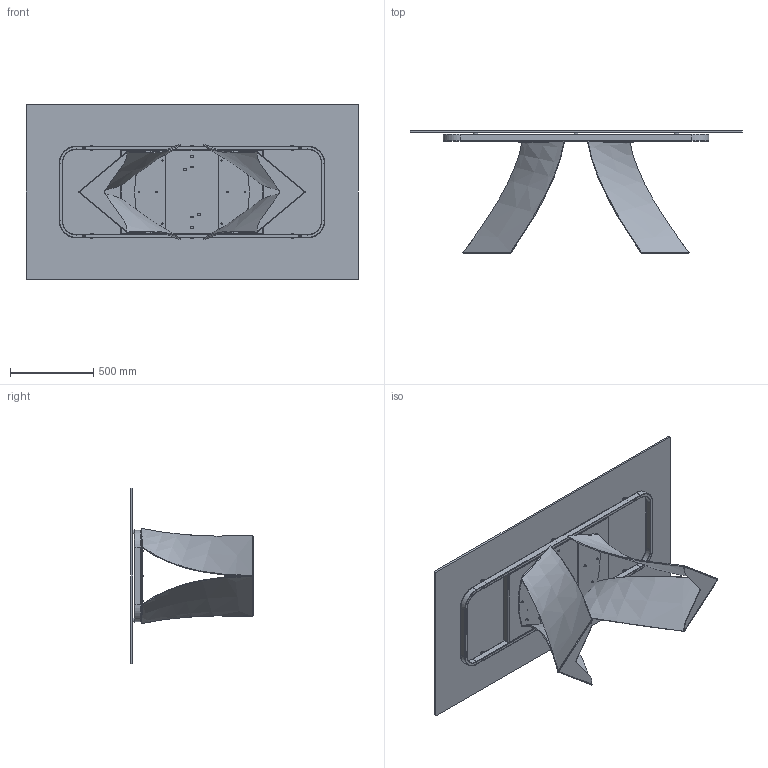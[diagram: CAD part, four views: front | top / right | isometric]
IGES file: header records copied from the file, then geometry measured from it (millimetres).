
Start section: SolidWorks IGES file using analytic representation for surfaces
Global section: file name: Y:\eforma\TECNICO\SOLIDWORKS\E-FORMA\1-TAVOLI\TWIST\02 parts\TW21G.IGS; native system: SolidWorks 2022; preprocessor: SolidWorks 2022; author: eforma.tech; date: 240807.143710; units: millimetre
Bounding box: 2000 x 737.37 x 1060 mm (x, y, z)
Volume: 35855411.6 mm3; surface area: 8725200.8 mm2
Topology: 56 solids, 56 shells, 1108 faces, 2582 edges, 1574 vertices
Faces by surface type: revolution 614, plane 428, bspline 66
